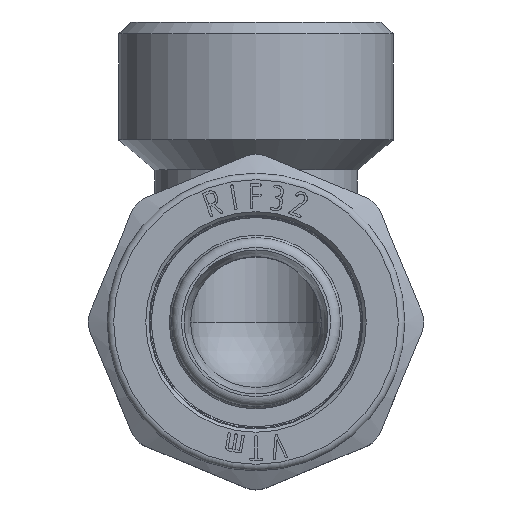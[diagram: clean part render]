
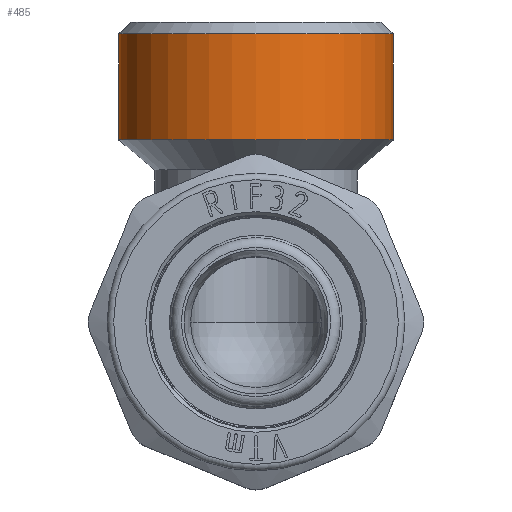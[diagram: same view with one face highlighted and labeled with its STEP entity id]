
A CAD part, top view. The second image highlights one B-rep face of the part: STEP entity #485.
In plain terms, the highlighted cylindrical face has radius 20.955 mm (diameter 41.91 mm), a full revolution.
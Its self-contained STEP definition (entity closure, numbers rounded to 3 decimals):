
#485=ADVANCED_FACE('',(#3535,#3537),#3539,.T.);
#3535=FACE_OUTER_BOUND('',#3536,.T.);
#3536=EDGE_LOOP('',(#6780));
#3537=FACE_OUTER_BOUND('',#3538,.T.);
#3538=EDGE_LOOP('',(#6781));
#3539=CYLINDRICAL_SURFACE('',#3540,20.955);
#3540=AXIS2_PLACEMENT_3D('',#3541,#3542,#3543);
#3541=CARTESIAN_POINT('',(0.,27.9,0.));
#3542=DIRECTION('',(0.,1.,0.));
#3543=DIRECTION('',(-1.,0.,0.));
#6780=ORIENTED_EDGE('',*,*,#8109,.F.);
#6781=ORIENTED_EDGE('',*,*,#7973,.F.);
#7973=EDGE_CURVE('',#9941,#9941,#9942,.F.);
#8109=EDGE_CURVE('',#10146,#10146,#10147,.T.);
#9941=VERTEX_POINT('',#16568);
#9942=CIRCLE('',#16569,20.955);
#10146=VERTEX_POINT('',#17047);
#10147=CIRCLE('',#17048,20.955);
#16568=CARTESIAN_POINT('',(-20.955,27.9,0.));
#16569=AXIS2_PLACEMENT_3D('',#16570,#16571,#16572);
#16570=CARTESIAN_POINT('',(0.,27.9,0.));
#16571=DIRECTION('',(0.,1.,0.));
#16572=DIRECTION('',(-1.,0.,0.));
#17047=CARTESIAN_POINT('',(-20.955,44.1,0.));
#17048=AXIS2_PLACEMENT_3D('',#17049,#17050,#17051);
#17049=CARTESIAN_POINT('',(0.,44.1,0.));
#17050=DIRECTION('',(0.,1.,0.));
#17051=DIRECTION('',(-1.,0.,0.));
